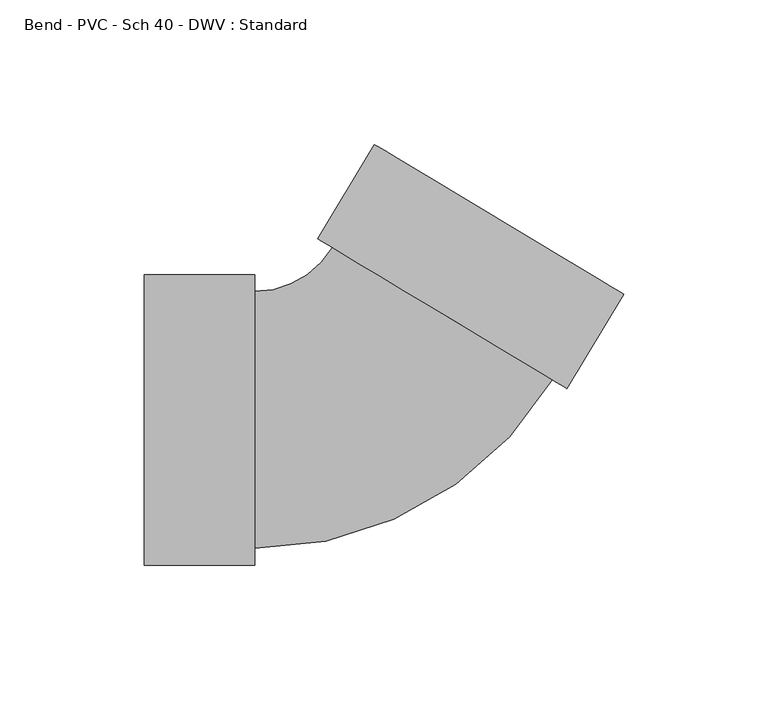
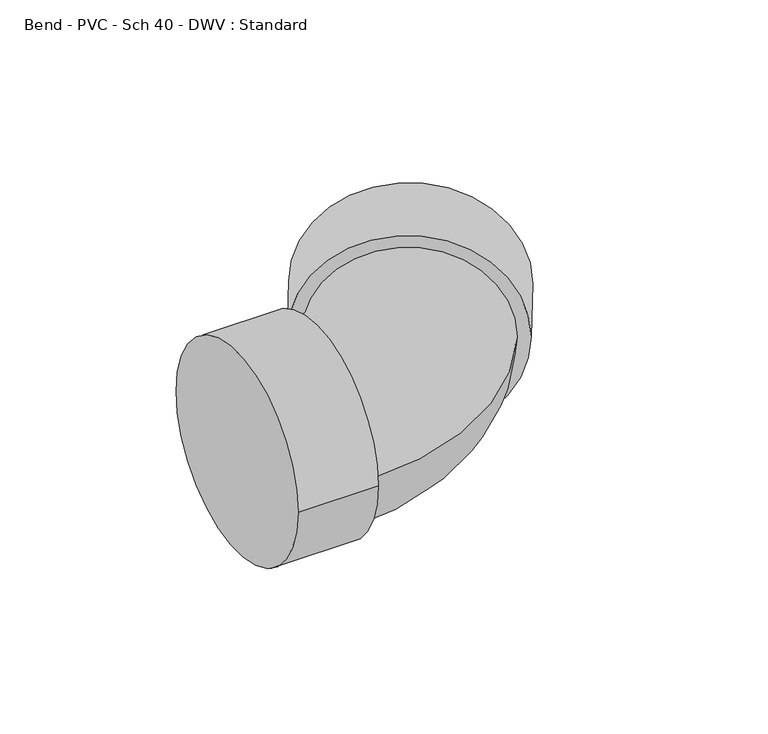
"""IFC4 building model written with IfcOpenShell, lengths in millimetres: pipe fitting geometry, Bend - PVC - Sch 40 - DWV : Standard."""

import ifcopenshell
import ifcopenshell.guid

model = None  # the IFC model being written
_history = None  # IfcOwnerHistory: only IFC2X3 demands one
_inside = {}  # id of a spatial element -> (the spatial element, [elements in it])
_under = {}  # id of a project, library or spatial element -> (it, [spatial elements below it])
_declared = {}  # id of a project -> (the project, [libraries it declares])
_typed = {}  # id of a type object -> (the type object, [elements of that type])
_made_of = {}  # id of a material, layer set ... -> (it, [elements and type objects made of it])


def new_model(schema):
    """Start an empty IFC model of exactly this schema.

    Asked for "IFC4X3", IfcOpenShell would pick the latest addendum, in which some entities
    have other attributes; the version numbers below select the first issue.
    IFC2X3 requires an IfcOwnerHistory on every rooted entity: one is made here for all.
    """
    global model, _history
    if schema == "IFC4X3":
        model = ifcopenshell.file(schema_version=(4, 3, 0, 0))
    else:
        model = ifcopenshell.file(schema=schema)
    _inside.clear()
    _under.clear()
    _declared.clear()
    _typed.clear()
    _made_of.clear()
    _history = None
    if model.schema == "IFC2X3":
        org = make("IfcOrganization", Name="unknown")
        user = make(
            "IfcPersonAndOrganization",
            ThePerson=make("IfcPerson", FamilyName="unknown"),
            TheOrganization=org,
        )
        app = make(
            "IfcApplication",
            ApplicationDeveloper=org,
            Version="unknown",
            ApplicationFullName="unknown",
            ApplicationIdentifier="unknown",
        )
        _history = make(
            "IfcOwnerHistory",
            OwningUser=user,
            OwningApplication=app,
            ChangeAction="ADDED",
            CreationDate=0,
        )
    return model


def make(cls, **values):
    """One entity of the class cls with the attributes given. An attribute that is None is left unset."""
    return model.create_entity(
        cls, **{name: value for name, value in values.items() if value is not None}
    )


def rooted(cls, **values):
    """An entity with a GlobalId (a new one), such as an element, a storey or a relation."""
    return make(cls, GlobalId=ifcopenshell.guid.new(), OwnerHistory=_history, **values)


def si_unit(unit_type, name, prefix=None):
    """IfcSIUnit, for example si_unit("LENGTHUNIT", "METRE", prefix="MILLI")."""
    return make("IfcSIUnit", UnitType=unit_type, Prefix=prefix, Name=name)


def assignment(units):
    """IfcUnitAssignment: the units of a project."""
    return None if units is None else make("IfcUnitAssignment", Units=units)


def point(xyz):
    """IfcCartesianPoint."""
    return None if xyz is None else make("IfcCartesianPoint", Coordinates=xyz)


def direction(xyz):
    """IfcDirection."""
    return None if xyz is None else make("IfcDirection", DirectionRatios=xyz)


def frame(location, z_axis=None, x_axis=None):
    """IfcAxis2Placement3D, a coordinate frame: its origin and axes. An axis left out is left unset."""
    return make(
        "IfcAxis2Placement3D",
        Location=point(location),
        Axis=direction(z_axis),
        RefDirection=direction(x_axis),
    )


def origin():
    """The frame at (0, 0, 0) with its axes left unset."""
    return frame((0.0, 0.0, 0.0))


def place(relative_to, where):
    """IfcLocalPlacement: puts the frame where relative to a parent placement (None: the world)."""
    return make(
        "IfcLocalPlacement", PlacementRelTo=relative_to, RelativePlacement=where
    )


def context(
    kind, dimensions, precision=None, world=None, true_north=None, identifier=None
):
    """IfcGeometricRepresentationContext, for example the 3D "Model" context."""
    return make(
        "IfcGeometricRepresentationContext",
        ContextIdentifier=identifier,
        ContextType=kind,
        CoordinateSpaceDimension=dimensions,
        Precision=precision,
        WorldCoordinateSystem=world,
        TrueNorth=true_north,
    )


def project(units=None, contexts=None):
    """IfcProject with its units and contexts."""
    return rooted(
        "IfcProject",
        Name="project",
        RepresentationContexts=contexts,
        UnitsInContext=assignment(units),
    )


def spatial(cls, under=None, at=None, **own):
    """A site, building, storey or space (cls), placed at a placement, below another one or the project."""
    s = rooted(cls, ObjectPlacement=at, **own)
    if under is not None:
        _under.setdefault(under.id(), (under, []))[1].append(s)
    return s


def circle_curve(where, radius):
    """IfcCircle in the frame where."""
    return make("IfcCircle", Position=where, Radius=radius)


def ellipse_curve(where, semi_axis1, semi_axis2):
    """IfcEllipse in the frame where."""
    return make(
        "IfcEllipse", Position=where, SemiAxis1=semi_axis1, SemiAxis2=semi_axis2
    )


def trimmed(basis, trim1, trim2, sense, master):
    """IfcTrimmedCurve: the piece of a basis curve between two trims."""
    return make(
        "IfcTrimmedCurve",
        BasisCurve=basis,
        Trim1=trim1,
        Trim2=trim2,
        SenseAgreement=sense,
        MasterRepresentation=master,
    )


def shape(context_of_items, identifier, shape_type, items):
    """IfcShapeRepresentation: the items that make up one representation, for example the "Body"."""
    return make(
        "IfcShapeRepresentation",
        ContextOfItems=context_of_items,
        RepresentationIdentifier=identifier,
        RepresentationType=shape_type,
        Items=items,
    )


def source(mapping_origin, context_of_items, identifier, shape_type, items):
    """IfcRepresentationMap: a shape defined once, which mapped items show again and again."""
    return make(
        "IfcRepresentationMap",
        MappingOrigin=mapping_origin,
        MappedRepresentation=shape(context_of_items, identifier, shape_type, items),
    )


def transform(
    local_origin,
    x_axis=None,
    y_axis=None,
    z_axis=None,
    scale=None,
    scale2=None,
    scale3=None,
    uniform=True,
):
    """IfcCartesianTransformationOperator3D, or its non-uniform kind. x_axis, y_axis, z_axis: its Axis1, 2, 3."""
    if uniform:
        return make(
            "IfcCartesianTransformationOperator3D",
            Axis1=direction(x_axis),
            Axis2=direction(y_axis),
            LocalOrigin=point(local_origin),
            Scale=scale,
            Axis3=direction(z_axis),
        )
    return make(
        "IfcCartesianTransformationOperator3DnonUniform",
        Axis1=direction(x_axis),
        Axis2=direction(y_axis),
        LocalOrigin=point(local_origin),
        Scale=scale,
        Axis3=direction(z_axis),
        Scale2=scale2,
        Scale3=scale3,
    )


def mapped(mapping_source, mapping_target):
    """IfcMappedItem: shows the shape of a source again, moved by a transform."""
    return make(
        "IfcMappedItem", MappingSource=mapping_source, MappingTarget=mapping_target
    )


def made_of(thing, what):
    """Note that an element or type object is made of a material, layer set ...; save() writes the relation."""
    if what is not None:
        _made_of.setdefault(what.id(), (what, []))[1].append(thing)
    return thing


def element(
    cls,
    number,
    at=None,
    inside=None,
    cuts=None,
    type_object=None,
    material=None,
    context=None,
    identifier="Body",
    shape_type=None,
    held_by="IfcProductDefinitionShape",
    body=None,
    shapes=None,
    **own,
):
    """One element of the class cls, such as IfcWall. Its Tag is "e" and its number.

    at: its placement. inside: the storey or other place that contains it. cuts: it is an
    opening in that element (IfcRelVoidsElement). A single representation is given by context,
    identifier, shape_type and body (its items); several are given by shapes. held_by: the class
    of the entity that holds the representations. save() writes the other relations.
    """
    e = rooted(cls, Tag="e%d" % number, ObjectPlacement=at, **own)
    if body is not None:
        shapes = [shape(context, identifier, shape_type, body)]
    if shapes is not None:
        e.Representation = make(held_by, Representations=shapes)
    if inside is not None:
        _inside.setdefault(inside.id(), (inside, []))[1].append(e)
    if cuts is not None:
        rooted(
            "IfcRelVoidsElement", RelatingBuildingElement=cuts, RelatedOpeningElement=e
        )
    if type_object is not None:
        _typed.setdefault(type_object.id(), (type_object, []))[1].append(e)
    return made_of(e, material)


def aggregate(whole, parts):
    """IfcRelAggregates: a whole, such as a stair, and the parts it consists of."""
    return rooted("IfcRelAggregates", RelatingObject=whole, RelatedObjects=parts)


def save(model, path):
    """Write the relations noted so far, then the file.

    IfcRelAggregates (storeys below a building ...), IfcRelContainedInSpatialStructure (elements
    in a storey), IfcRelDefinesByType, IfcRelAssociatesMaterial and IfcRelDeclares: one each for
    every whole, place, type object, material and project.
    """
    for whole, parts in _under.values():
        aggregate(whole, parts)
    for where, things in _inside.values():
        rooted(
            "IfcRelContainedInSpatialStructure",
            RelatedElements=things,
            RelatingStructure=where,
        )
    for kind, things in _typed.values():
        rooted("IfcRelDefinesByType", RelatedObjects=things, RelatingType=kind)
    for what, things in _made_of.values():
        rooted("IfcRelAssociatesMaterial", RelatedObjects=things, RelatingMaterial=what)
    for by, libraries in _declared.values():
        rooted("IfcRelDeclares", RelatingContext=by, RelatedDefinitions=libraries)
    model.write(path)


def plane_surface(at):
    """IfcPlane: the flat surface through the origin of the frame at, square to its z axis."""
    return make("IfcPlane", Position=at)


def cylinder_surface(at, radius):
    """IfcCylindricalSurface: all points at the distance radius from the z axis of the frame at."""
    return make("IfcCylindricalSurface", Position=at, Radius=radius)


def revolved_surface(curve, axis_point, axis_direction):
    """IfcSurfaceOfRevolution: the curve turned about the line through axis_point along axis_direction."""
    return make(
        "IfcSurfaceOfRevolution",
        SweptCurve=make("IfcArbitraryOpenProfileDef", ProfileType="CURVE", Curve=curve),
        AxisPosition=make("IfcAxis1Placement", Location=point(axis_point), Axis=direction(axis_direction)),
    )


def advanced_brep(points, edges, surfaces, faces):
    """IfcAdvancedBrep: a solid bounded by faces that lie on surfaces and meet in shared edges.

    An edge is (start, end): straight between two places in points (the first is 0);
    or (start, end, curve); or (start, end, curve, False) where it runs against its curve.
    A face is (place in surfaces, loops), or (place, loops, False) where it looks against
    its surface's normal. A loop lists edges by number (the first is 1), with a minus sign
    where the edge is run from its end to its start. The first loop is the outer one.
    """
    corners = [point(p) for p in points]
    vertices = [make("IfcVertexPoint", VertexGeometry=c) for c in corners]
    made = []
    for start, end, *more in edges:
        made.append(
            make(
                "IfcEdgeCurve",
                EdgeStart=vertices[start],
                EdgeEnd=vertices[end],
                EdgeGeometry=more[0] if more else make("IfcPolyline", Points=[corners[start], corners[end]]),
                SameSense=more[1] if len(more) > 1 else True,
            )
        )
    hull = []
    for where, loops, *sense in faces:
        bounds = []
        for j, loop in enumerate(loops):
            ring = [make("IfcOrientedEdge", EdgeElement=made[abs(k) - 1], Orientation=k > 0) for k in loop]
            bounds.append(
                make(
                    "IfcFaceOuterBound" if j == 0 else "IfcFaceBound",
                    Bound=make("IfcEdgeLoop", EdgeList=ring),
                    Orientation=True,
                )
            )
        hull.append(make("IfcAdvancedFace", Bounds=bounds, FaceSurface=surfaces[where], SameSense=sense[0] if sense else True))
    return make("IfcAdvancedBrep", Outer=make("IfcClosedShell", CfsFaces=hull))


def bend_pvc_sch_40_dwv_standard_7bd6d8ba(model_context):
    return source(origin(), model_context, "Body", "AdvancedBrep", [
        advanced_brep(
        [(-80.9752, -50.2666, 0.0), (-80.9752, 50.2666, 0.0), (-42.8752, -50.2666, 0.0), (-42.8752, 50.2666, 0.0), (-42.8752, -44.45, 0.0), (-42.8752, 44.45, 0.0), (-16.0206702, 59.6441397, 0.0), (60.1829952, 13.8597387, 0.0), (65.1688922, 10.8641308, 0.0), (-21.0065672, 62.6397477, 0.0), (84.7907783, 43.5228446, 0.0), (-1.384681, 95.2984614, 0.0)],
        [
            (0, 1, circle_curve(frame((-80.9752, 0.0, 0.0), z_axis=(-1.0, 0.0, 0.0), x_axis=(0.0, 1.0, 0.0)), 50.2666)),
            (1, 0, circle_curve(frame((-80.9752, 0.0, 0.0), z_axis=(-1.0, 0.0, 0.0), x_axis=(0.0, 1.0, 0.0)), 50.2666)),
            (2, 3, circle_curve(frame((-42.8752, 0.0, 0.0), z_axis=(1.0, 0.0, 0.0), x_axis=(0.0, 1.0, 0.0)), 50.2666)),
            (3, 2, circle_curve(frame((-42.8752, 0.0, 0.0), z_axis=(1.0, 0.0, 0.0), x_axis=(0.0, 1.0, 0.0)), 50.2666)),
            (4, 5, circle_curve(frame((-42.8752, 0.0, 0.0), z_axis=(-1.0, 0.0, 0.0), x_axis=(0.0, 1.0, 0.0)), 44.45)),
            (5, 4, circle_curve(frame((-42.8752, 0.0, 0.0), z_axis=(-1.0, 0.0, 0.0), x_axis=(0.0, 1.0, 0.0)), 44.45)),
            (0, 2),
            (3, 1),
            (6, 5, circle_curve(frame((-42.8752, 75.7787778, 0.0), z_axis=(0.0, 0.0, -1.0), x_axis=(0.0, -1.0, 0.0)), 31.3287778)),
            (4, 7, circle_curve(frame((-42.8752, 75.7787778, 0.0), z_axis=(0.0, 0.0, 1.0), x_axis=(0.0, -1.0, 0.0)), 120.2287778)),
            (7, 6, circle_curve(frame((22.0811625, 36.7519392, 0.0), z_axis=(-0.5150101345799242, -0.857184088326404, 0.0), x_axis=(-0.857184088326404, 0.5150101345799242, 0.0)), 44.45)),
            (6, 7, circle_curve(frame((22.0811625, 36.7519392, 0.0), z_axis=(-0.5150101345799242, -0.857184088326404, 0.0), x_axis=(-0.857184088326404, 0.5150101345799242, 0.0)), 44.45)),
            (8, 9, circle_curve(frame((22.0811625, 36.7519392, 0.0), z_axis=(-0.5150101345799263, -0.8571840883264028, 0.0), x_axis=(-0.8571840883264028, 0.5150101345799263, 0.0)), 50.2666)),
            (9, 8, circle_curve(frame((22.0811625, 36.7519392, 0.0), z_axis=(-0.5150101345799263, -0.8571840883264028, 0.0), x_axis=(-0.8571840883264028, 0.5150101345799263, 0.0)), 50.2666)),
            (10, 11, circle_curve(frame((41.7030486, 69.410653, 0.0), z_axis=(0.5150101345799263, 0.8571840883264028, 0.0), x_axis=(-0.8571840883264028, 0.5150101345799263, 0.0)), 50.2666)),
            (11, 10, circle_curve(frame((41.7030486, 69.410653, 0.0), z_axis=(0.5150101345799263, 0.8571840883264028, 0.0), x_axis=(-0.8571840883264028, 0.5150101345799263, 0.0)), 50.2666)),
            (8, 10),
            (11, 9),
        ],
        [
            plane_surface(frame((-80.9752, 0.0, 0.0), z_axis=(-1.0, 0.0, 0.0), x_axis=(0.0, 0.0, 1.0))),
            plane_surface(frame((-42.8752, 0.0, 0.0), z_axis=(1.0, 0.0, 0.0), x_axis=(0.0, 0.0, 1.0))),
            cylinder_surface(frame((-80.9752, 0.0, 0.0), z_axis=(-1.0, 0.0, 0.0), x_axis=(0.0, 1.0, 0.0)), 50.2666),
            revolved_surface(trimmed(ellipse_curve(frame((-42.8752, 0.0, 0.0), z_axis=(-1.0, 0.0, 0.0), x_axis=(0.0, 1.0, 0.0)), 44.45, 44.45), [point((-42.8752, -44.45, 0.0))], [point((-42.8752, 44.45, 0.0))], True, "CARTESIAN"), (-42.8752, 75.7787778, 0.0), (0.0, 0.0, 1.0)),
            revolved_surface(trimmed(ellipse_curve(frame((-42.8752, 0.0, 0.0), z_axis=(-1.0, 0.0, 0.0), x_axis=(0.0, 1.0, 0.0)), 44.45, 44.45), [point((-42.8752, 44.45, 0.0))], [point((-42.8752, -44.45, 0.0))], True, "CARTESIAN"), (-42.8752, 75.7787778, 0.0), (0.0, 0.0, 1.0)),
            plane_surface(frame((22.0811625, 36.7519392, 0.0), z_axis=(-0.5150101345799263, -0.8571840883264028, 0.0), x_axis=(0.0, 0.0, 1.0))),
            plane_surface(frame((41.7030486, 69.410653, 0.0), z_axis=(0.5150101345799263, 0.8571840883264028, 0.0), x_axis=(0.0, 0.0, 1.0))),
            cylinder_surface(frame((22.0811625, 36.7519392, 0.0), z_axis=(-0.5150101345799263, -0.8571840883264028, 0.0), x_axis=(-0.8571840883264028, 0.5150101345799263, 0.0)), 50.2666),
        ],
        [
            (0, [[1, 2]]),
            (1, [[3, 4], [5, 6]]),
            (2, [[-1, 7, -4, 8]]),
            (2, [[-2, -8, -3, -7]]),
            (3, [[9, -5, 10, 11]]),
            (4, [[-9, 12, -10, -6]]),
            (5, [[13, 14], [-11, -12]]),
            (6, [[15, 16]]),
            (7, [[-13, 17, -16, 18]]),
            (7, [[-14, -18, -15, -17]]),
        ],
    ),
    ])


if __name__ == "__main__":
    model = new_model("IFC4")
    model_context = context("Model", 3, world=origin())
    ifc_project = project(units=[si_unit("LENGTHUNIT", "METRE", prefix="MILLI")], contexts=[model_context])
    site = spatial("IfcSite", under=ifc_project)
    building = spatial("IfcBuilding", under=site)
    placement = place(None, origin())
    bend_pvc_sch_40_dwv_standard_shape = bend_pvc_sch_40_dwv_standard_7bd6d8ba(model_context)
    element("IfcPipeFitting", 1, ObjectType="Bend - PVC - Sch 40 - DWV : Standard", at=placement, inside=building, context=model_context, shape_type="MappedRepresentation", body=[
        mapped(bend_pvc_sch_40_dwv_standard_shape, transform((0.0, 0.0, 0.0), x_axis=(1.0, 0.0, 0.0), y_axis=(0.0, 1.0, 0.0), z_axis=(0.0, 0.0, 1.0))),
    ])
    save(model, "model.ifc")
